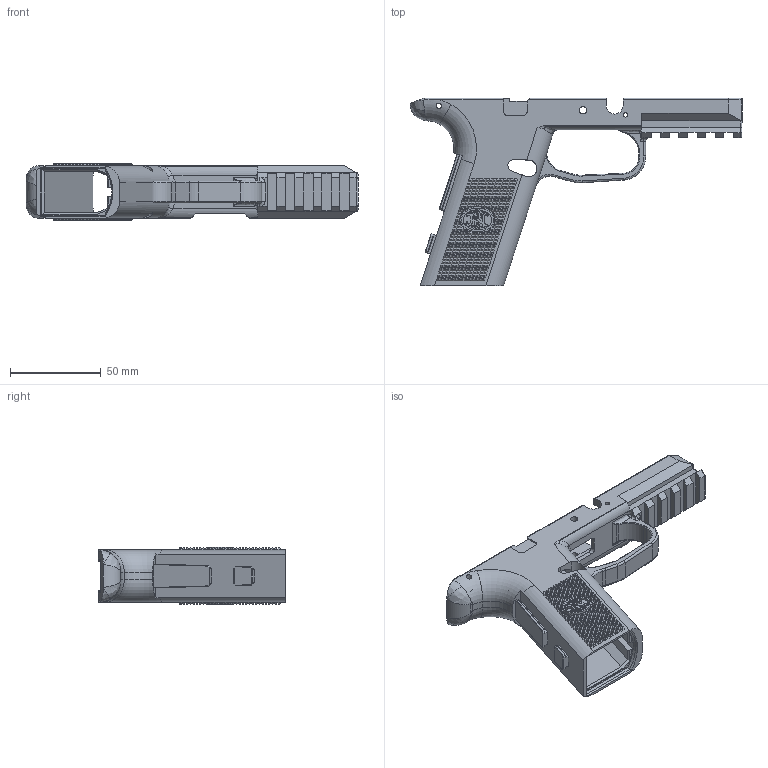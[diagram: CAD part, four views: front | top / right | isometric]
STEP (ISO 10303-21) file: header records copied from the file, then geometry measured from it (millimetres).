
FILE_DESCRIPTION(/* description */ (''),/* implementation_level */ '2;1');
FILE_NAME(/* name */ 'C:/Users/Bob/Desktop/FNS-940_Texture_1 v10.step',/* time_stamp */ '2021-06-04T19:19:32-07:00',/* author */ (''),/* organization */ (''),/* preprocessor_version */ 'ST-DEVELOPER v18.1',/* originating_system */ 'Autodesk Translation Framework v10.9.0.1377',/* authorisation */ '');
FILE_SCHEMA (('AUTOMOTIVE_DESIGN { 1 0 10303 214 3 1 1 }'));
Products named in the file (5): FNS-940_Texture_1; Main Frame; Compact Size Grip; Standard Size Grip; Standard Size Grip (Stopgap)
Assembly tree (4 placements, depth 2):
  FNS-940_Texture_1
    Main Frame
    Compact Size Grip
    Standard Size Grip
    Standard Size Grip (Stopgap)
Bounding box: 183.1 x 103.6 x 31.54 mm (x, y, z)
Volume: 81595.2 mm3; surface area: 48936.1 mm2
Topology: 1 solids, 1 shells, 4376 faces, 9183 edges, 4814 vertices
Faces by surface type: plane 4059, bspline 166, cylinder 118, torus 27, cone 6
Full cylindrical faces by diameter (mm): 0.612 x2, 2.5 x2, 3 x2, 4.1 x2
Entity records: 125458 total; most frequent: CARTESIAN_POINT 35924, ORIENTED_EDGE 18362, DIRECTION 17443, EDGE_CURVE 9181, LINE 8349, VECTOR 8349, VERTEX_POINT 4814, AXIS2_PLACEMENT_3D 4547
